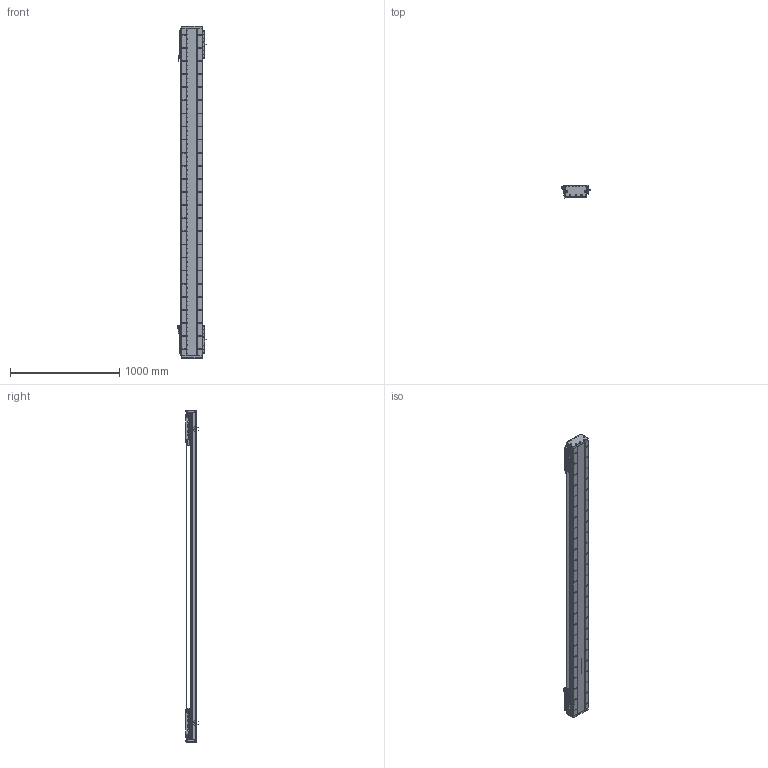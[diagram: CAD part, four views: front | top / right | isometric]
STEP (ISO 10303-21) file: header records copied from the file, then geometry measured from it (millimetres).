
FILE_DESCRIPTION (( 'STEP AP203' ), '1' );
FILE_NAME ('DA-C195-2-C3-T2420-C010-0.2 眻盄萇儂.STEP', '2025-08-15T00:50:06', ( '' ), ( '' ), 'SwSTEP 2.0', 'SolidWorks 2019', '' );
FILE_SCHEMA (( 'CONFIG_CONTROL_DESIGN' ));
Length unit declared in the file: millimetre
Products named in the file (19): DA195詩湍裔啣; DKW-KGZ-ZJ-00 中间光电开关支架; DA95-HXJ-00 遣喳砎蝶; DKW168-HXJ-ZJ-00 笢潔滅袉砎蝶; DA195詩湍嶺輸; DA-C195-2-C3-T2420-C010-0.2 眻盄萇儂; DA165-GYP-00 光电感应片(默认); PM-T45ㄗ侂狟ㄘ; DA195詩湍菜輸; DA195詩湍郪璃; IU-CU195-L 菁釱絳寢; MS200 棠掑喜S315-T240; DA-C195-GD-DB-H-00 傷啣; LMT黍杅芛; IU-CU195-L-00 菁釱(L3000); DKW-GYP-ZJ-00 笢潔嫖萇覜茼え; PM-Y65嫖萇羲壽郪璃; 葩璃 DA95-GT-T-00; CU195-C3賑輸-俋楷
Assembly tree (37 placements, depth 3):
  DA-C195-2-C3-T2420-C010-0.2 眻盄萇儂
    DA195詩湍郪璃
      DA195詩湍菜輸  x2
      DA195詩湍裔啣
      DA195詩湍嶺輸  x2
      DA95-HXJ-00 遣喳砎蝶  x8
      DA-C195-GD-DB-H-00 傷啣  x2
    IU-CU195-L 菁釱絳寢
      IU-CU195-L-00 菁釱(L3000)
      葩璃 DA95-GT-T-00  x4
    LMT黍杅芛  x2
    MS200 棠掑喜S315-T240
    PM-T45ㄗ侂狟ㄘ  x4
    DA165-GYP-00 光电感应片(默认)  x2
    PM-Y65嫖萇羲壽郪璃
    DKW168-HXJ-ZJ-00 笢潔滅袉砎蝶
    DKW-GYP-ZJ-00 笢潔嫖萇覜茼え
    DKW-KGZ-ZJ-00 中间光电开关支架
    CU195-C3賑輸-俋楷  x2
Bounding box: 258.2 x 115.45 x 3040 mm (x, y, z)
Volume: 19138281.8 mm3; surface area: 5529333.6 mm2
Topology: 154 solids, 218 shells, 7059 faces, 19071 edges, 11909 vertices
Faces by surface type: cylinder 3450, plane 2557, cone 884, torus 88, sphere 72, bspline 8
Entity records: 158397 total; most frequent: CARTESIAN_POINT 43377, ORIENTED_EDGE 24158, DIRECTION 22840, EDGE_CURVE 12079, AXIS2_PLACEMENT_3D 8425, VERTEX_POINT 7834, LINE 5990, VECTOR 5990
